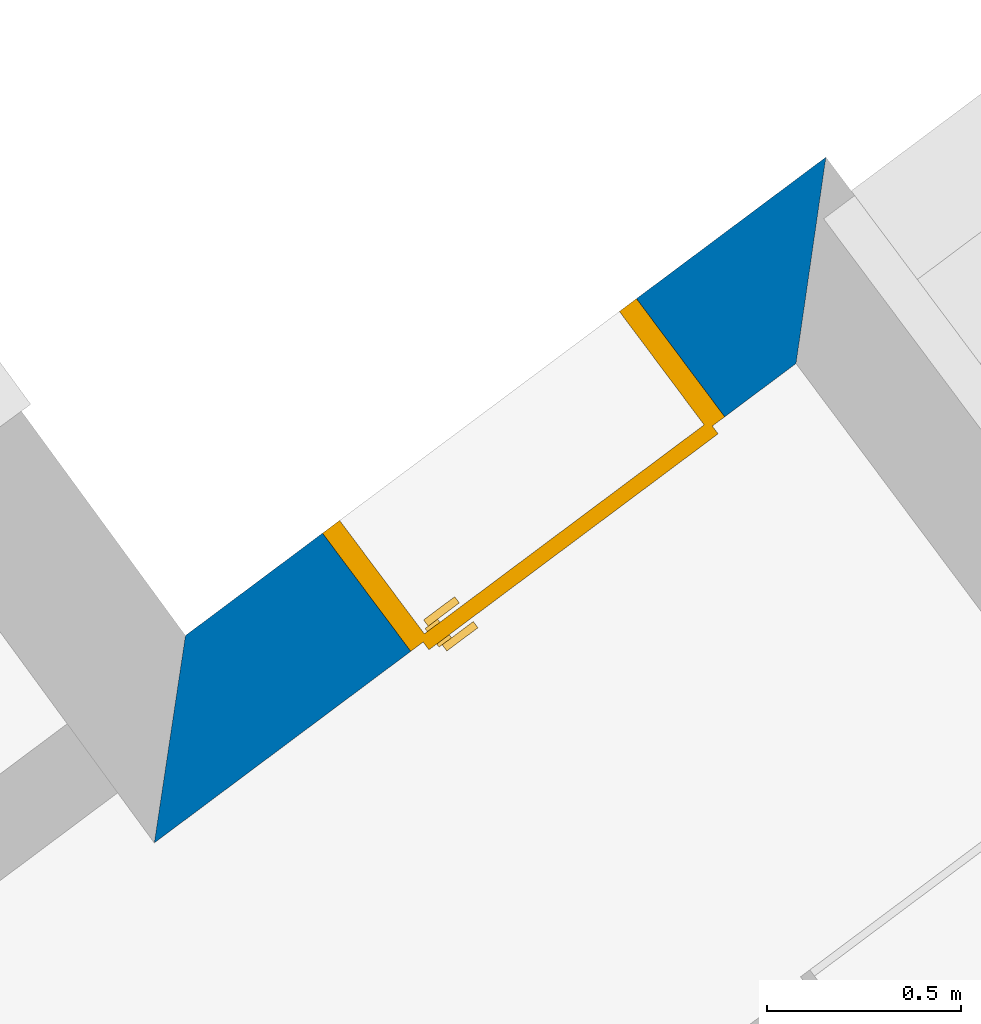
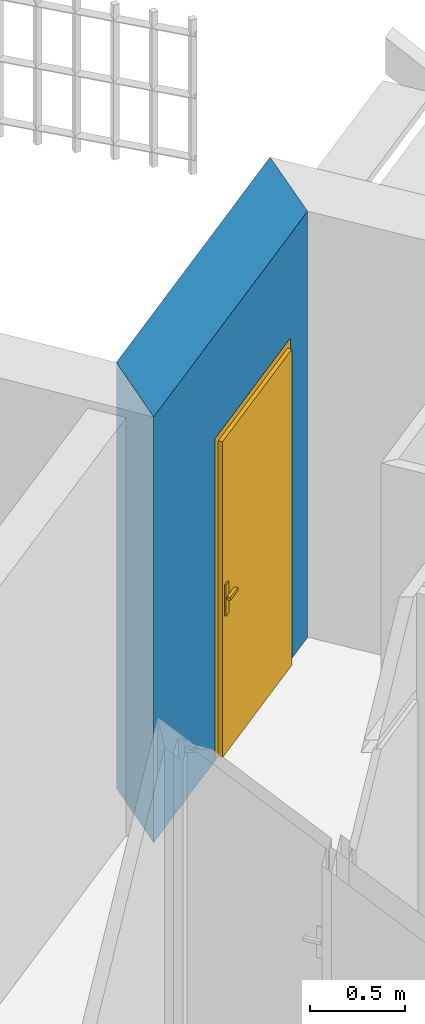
# One storey, part 14 of 195: 1 door, 1 wall, 1 opening.
"""IFC2X3 building model written with IfcOpenShell, lengths in metres."""

import ifcopenshell
import ifcopenshell.guid

model = None  # the IFC model being written
_history = None  # IfcOwnerHistory: only IFC2X3 demands one
_inside = {}  # id of a spatial element -> (the spatial element, [elements in it])
_under = {}  # id of a project, library or spatial element -> (it, [spatial elements below it])
_declared = {}  # id of a project -> (the project, [libraries it declares])
_typed = {}  # id of a type object -> (the type object, [elements of that type])
_made_of = {}  # id of a material, layer set ... -> (it, [elements and type objects made of it])


def new_model(schema):
    """Start an empty IFC model of exactly this schema.

    Asked for "IFC4X3", IfcOpenShell would pick the latest addendum, in which some entities
    have other attributes; the version numbers below select the first issue.
    IFC2X3 requires an IfcOwnerHistory on every rooted entity: one is made here for all.
    """
    global model, _history
    if schema == "IFC4X3":
        model = ifcopenshell.file(schema_version=(4, 3, 0, 0))
    else:
        model = ifcopenshell.file(schema=schema)
    _inside.clear()
    _under.clear()
    _declared.clear()
    _typed.clear()
    _made_of.clear()
    _history = None
    if model.schema == "IFC2X3":
        org = make("IfcOrganization", Name="unknown")
        user = make(
            "IfcPersonAndOrganization",
            ThePerson=make("IfcPerson", FamilyName="unknown"),
            TheOrganization=org,
        )
        app = make(
            "IfcApplication",
            ApplicationDeveloper=org,
            Version="unknown",
            ApplicationFullName="unknown",
            ApplicationIdentifier="unknown",
        )
        _history = make(
            "IfcOwnerHistory",
            OwningUser=user,
            OwningApplication=app,
            ChangeAction="ADDED",
            CreationDate=0,
        )
    return model


def make(cls, **values):
    """One entity of the class cls with the attributes given. An attribute that is None is left unset."""
    return model.create_entity(
        cls, **{name: value for name, value in values.items() if value is not None}
    )


def entity(cls, *values):
    """Any entity or typed value of the class cls, its attributes in the order of the schema. None: left unset."""
    e = model.create_entity(cls)
    for i, value in enumerate(values):
        if value is not None:
            e[i] = value
    return e


def rooted(cls, **values):
    """An entity with a GlobalId (a new one), such as an element, a storey or a relation."""
    return make(cls, GlobalId=ifcopenshell.guid.new(), OwnerHistory=_history, **values)


def si_unit(unit_type, name, prefix=None):
    """IfcSIUnit, for example si_unit("LENGTHUNIT", "METRE", prefix="MILLI")."""
    return make("IfcSIUnit", UnitType=unit_type, Prefix=prefix, Name=name)


def converted_unit(unit_type, name, factor, base, dimensions=None, offset=None):
    """IfcConversionBasedUnit, such as the inch: factor (a typed value) times the base unit."""
    return make(
        "IfcConversionBasedUnit"
        if offset is None
        else "IfcConversionBasedUnitWithOffset",
        ConversionOffset=offset,
        Dimensions=None
        if dimensions is None
        else entity("IfcDimensionalExponents", *dimensions),
        UnitType=unit_type,
        Name=name,
        ConversionFactor=make(
            "IfcMeasureWithUnit", ValueComponent=factor, UnitComponent=base
        ),
    )


def derived_unit(unit_type, elements):
    """IfcDerivedUnit: a product of units, each with its exponent."""
    return make(
        "IfcDerivedUnit",
        Elements=[
            make("IfcDerivedUnitElement", Unit=unit, Exponent=power)
            for unit, power in elements
        ],
        UnitType=unit_type,
    )


def money_unit(currency):
    """IfcMonetaryUnit."""
    return make("IfcMonetaryUnit", Currency=currency)


def assignment(units):
    """IfcUnitAssignment: the units of a project."""
    return None if units is None else make("IfcUnitAssignment", Units=units)


def point(xyz):
    """IfcCartesianPoint."""
    return None if xyz is None else make("IfcCartesianPoint", Coordinates=xyz)


def direction(xyz):
    """IfcDirection."""
    return None if xyz is None else make("IfcDirection", DirectionRatios=xyz)


def frame(location, z_axis=None, x_axis=None):
    """IfcAxis2Placement3D, a coordinate frame: its origin and axes. An axis left out is left unset."""
    return make(
        "IfcAxis2Placement3D",
        Location=point(location),
        Axis=direction(z_axis),
        RefDirection=direction(x_axis),
    )


def frame_2d(location, x_axis=None):
    """IfcAxis2Placement2D, a coordinate frame in the plane: its origin and x axis."""
    return make(
        "IfcAxis2Placement2D", Location=point(location), RefDirection=direction(x_axis)
    )


def origin_with_axes():
    """The frame at (0, 0, 0) with the z axis (0, 0, 1) and the x axis (1, 0, 0) written out."""
    return frame((0.0, 0.0, 0.0), z_axis=(0.0, 0.0, 1.0), x_axis=(1.0, 0.0, 0.0))


def origin_2d_with_axis():
    """The frame at (0, 0) in the plane with the x axis (1, 0) written out."""
    return frame_2d((0.0, 0.0), x_axis=(1.0, 0.0))


def place(relative_to, where):
    """IfcLocalPlacement: puts the frame where relative to a parent placement (None: the world)."""
    return make(
        "IfcLocalPlacement", PlacementRelTo=relative_to, RelativePlacement=where
    )


def context(
    kind, dimensions, precision=None, world=None, true_north=None, identifier=None
):
    """IfcGeometricRepresentationContext, for example the 3D "Model" context."""
    return make(
        "IfcGeometricRepresentationContext",
        ContextIdentifier=identifier,
        ContextType=kind,
        CoordinateSpaceDimension=dimensions,
        Precision=precision,
        WorldCoordinateSystem=world,
        TrueNorth=true_north,
    )


def subcontext(parent, identifier, kind, view, scale=None):
    """IfcGeometricRepresentationSubContext, for example "Body" below "Model"."""
    return make(
        "IfcGeometricRepresentationSubContext",
        ContextIdentifier=identifier,
        ContextType=kind,
        ParentContext=parent,
        TargetScale=scale,
        TargetView=view,
    )


def project(units=None, contexts=None):
    """IfcProject with its units and contexts."""
    return rooted(
        "IfcProject",
        Name="project",
        RepresentationContexts=contexts,
        UnitsInContext=assignment(units),
    )


def spatial(cls, under=None, at=None, **own):
    """A site, building, storey or space (cls), placed at a placement, below another one or the project."""
    s = rooted(cls, ObjectPlacement=at, **own)
    if under is not None:
        _under.setdefault(under.id(), (under, []))[1].append(s)
    return s


def polyline(points):
    """IfcPolyline through the points."""
    return make("IfcPolyline", Points=[point(p) for p in points])


def profile(cls, at=None, kind="AREA", **sizes):
    """A parametric profile (cls). Its sizes go by their IFC names, for example OverallWidth=200.0."""
    return make(cls, ProfileType=kind, Position=at, **sizes)


def rectangle(**sizes):
    """IfcRectangleProfileDef."""
    return profile("IfcRectangleProfileDef", **sizes)


def outline(outer, holes=None, kind="AREA"):
    """IfcArbitraryClosedProfileDef: a profile drawn as a closed curve; with holes, ...WithVoids."""
    if holes is None:
        return make("IfcArbitraryClosedProfileDef", ProfileType=kind, OuterCurve=outer)
    return make(
        "IfcArbitraryProfileDefWithVoids",
        ProfileType=kind,
        OuterCurve=outer,
        InnerCurves=holes,
    )


def extrude(swept, where, along, depth):
    """IfcExtrudedAreaSolid: the profile swept, set in the frame where, extruded along a direction by depth."""
    return make(
        "IfcExtrudedAreaSolid",
        SweptArea=swept,
        Position=where,
        ExtrudedDirection=direction(along),
        Depth=depth,
    )


def faces_of(points, faces, orient=None, outer=None):
    """IfcFace entities. A face is a list of loops; a loop is a list of indices into points, from 0.

    orient and outer hold one flag for each loop. By default every Orientation is true, the
    first loop of a face is its IfcFaceOuterBound and the others are IfcFaceBound.
    """
    made = []
    for i, loops in enumerate(faces):
        bounds = []
        for j, loop in enumerate(loops):
            is_outer = j == 0 if outer is None else outer[i][j]
            bounds.append(
                make(
                    "IfcFaceOuterBound" if is_outer else "IfcFaceBound",
                    Bound=make("IfcPolyLoop", Polygon=[points[k] for k in loop]),
                    Orientation=True if orient is None else orient[i][j],
                )
            )
        made.append(make("IfcFace", Bounds=bounds))
    return made


def faceted_brep(points, faces, orient=None, outer=None, voids=None):
    """IfcFacetedBrep: a solid bounded by flat faces; with voids (closed shells), ...WithVoids."""
    shared = [point(p) for p in points]
    hull = make("IfcClosedShell", CfsFaces=faces_of(shared, faces, orient, outer))
    if voids is None:
        return make("IfcFacetedBrep", Outer=hull)
    return make(
        "IfcFacetedBrepWithVoids",
        Outer=hull,
        Voids=[
            make(cls, CfsFaces=faces_of(shared, fs, o, b)) for cls, fs, o, b in voids
        ],
    )


def shape(context_of_items, identifier, shape_type, items):
    """IfcShapeRepresentation: the items that make up one representation, for example the "Body"."""
    return make(
        "IfcShapeRepresentation",
        ContextOfItems=context_of_items,
        RepresentationIdentifier=identifier,
        RepresentationType=shape_type,
        Items=items,
    )


def source(mapping_origin, context_of_items, identifier, shape_type, items):
    """IfcRepresentationMap: a shape defined once, which mapped items show again and again."""
    return make(
        "IfcRepresentationMap",
        MappingOrigin=mapping_origin,
        MappedRepresentation=shape(context_of_items, identifier, shape_type, items),
    )


def transform(
    local_origin,
    x_axis=None,
    y_axis=None,
    z_axis=None,
    scale=None,
    scale2=None,
    scale3=None,
    uniform=True,
):
    """IfcCartesianTransformationOperator3D, or its non-uniform kind. x_axis, y_axis, z_axis: its Axis1, 2, 3."""
    if uniform:
        return make(
            "IfcCartesianTransformationOperator3D",
            Axis1=direction(x_axis),
            Axis2=direction(y_axis),
            LocalOrigin=point(local_origin),
            Scale=scale,
            Axis3=direction(z_axis),
        )
    return make(
        "IfcCartesianTransformationOperator3DnonUniform",
        Axis1=direction(x_axis),
        Axis2=direction(y_axis),
        LocalOrigin=point(local_origin),
        Scale=scale,
        Axis3=direction(z_axis),
        Scale2=scale2,
        Scale3=scale3,
    )


def mapped(mapping_source, mapping_target):
    """IfcMappedItem: shows the shape of a source again, moved by a transform."""
    return make(
        "IfcMappedItem", MappingSource=mapping_source, MappingTarget=mapping_target
    )


def material(Name=None, Category=None):
    """IfcMaterial."""
    return make("IfcMaterial", Name=Name, Category=Category)


def layer(
    of_material, thickness, ventilated=None, Name=None, Category=None, Priority=None
):
    """IfcMaterialLayer: one layer of a wall or slab, of a material (None: an air gap)."""
    return make(
        "IfcMaterialLayer",
        Material=of_material,
        LayerThickness=thickness,
        IsVentilated=ventilated,
        Name=Name,
        Category=Category,
        Priority=Priority,
    )


def layer_set(layers, Name=None):
    """IfcMaterialLayerSet."""
    return make("IfcMaterialLayerSet", MaterialLayers=layers, LayerSetName=Name)


def layer_usage(for_layer_set, set_direction, sense, offset, extent=None):
    """IfcMaterialLayerSetUsage: how a layer set lies in its element."""
    return make(
        "IfcMaterialLayerSetUsage",
        ForLayerSet=for_layer_set,
        LayerSetDirection=set_direction,
        DirectionSense=sense,
        OffsetFromReferenceLine=offset,
        ReferenceExtent=extent,
    )


def made_of(thing, what):
    """Note that an element or type object is made of a material, layer set ...; save() writes the relation."""
    if what is not None:
        _made_of.setdefault(what.id(), (what, []))[1].append(thing)
    return thing


def type_object(cls, material=None, **own):
    """A type object (cls), such as IfcWallType, which elements share."""
    return made_of(rooted(cls, **own), material)


def element(
    cls,
    number,
    at=None,
    inside=None,
    cuts=None,
    type_object=None,
    material=None,
    context=None,
    identifier="Body",
    shape_type=None,
    held_by="IfcProductDefinitionShape",
    body=None,
    shapes=None,
    **own,
):
    """One element of the class cls, such as IfcWall. Its Tag is "e" and its number.

    at: its placement. inside: the storey or other place that contains it. cuts: it is an
    opening in that element (IfcRelVoidsElement). A single representation is given by context,
    identifier, shape_type and body (its items); several are given by shapes. held_by: the class
    of the entity that holds the representations. save() writes the other relations.
    """
    e = rooted(cls, Tag="e%d" % number, ObjectPlacement=at, **own)
    if body is not None:
        shapes = [shape(context, identifier, shape_type, body)]
    if shapes is not None:
        e.Representation = make(held_by, Representations=shapes)
    if inside is not None:
        _inside.setdefault(inside.id(), (inside, []))[1].append(e)
    if cuts is not None:
        rooted(
            "IfcRelVoidsElement", RelatingBuildingElement=cuts, RelatedOpeningElement=e
        )
    if type_object is not None:
        _typed.setdefault(type_object.id(), (type_object, []))[1].append(e)
    return made_of(e, material)


def fill(opening, filler):
    """IfcRelFillsElement: the door or window that sits in an opening."""
    return rooted(
        "IfcRelFillsElement",
        RelatingOpeningElement=opening,
        RelatedBuildingElement=filler,
    )


def aggregate(whole, parts):
    """IfcRelAggregates: a whole, such as a stair, and the parts it consists of."""
    return rooted("IfcRelAggregates", RelatingObject=whole, RelatedObjects=parts)


def save(model, path):
    """Write the relations noted so far, then the file.

    IfcRelAggregates (storeys below a building ...), IfcRelContainedInSpatialStructure (elements
    in a storey), IfcRelDefinesByType, IfcRelAssociatesMaterial and IfcRelDeclares: one each for
    every whole, place, type object, material and project.
    """
    for whole, parts in _under.values():
        aggregate(whole, parts)
    for where, things in _inside.values():
        rooted(
            "IfcRelContainedInSpatialStructure",
            RelatedElements=things,
            RelatingStructure=where,
        )
    for kind, things in _typed.values():
        rooted("IfcRelDefinesByType", RelatedObjects=things, RelatingType=kind)
    for what, things in _made_of.values():
        rooted("IfcRelAssociatesMaterial", RelatedObjects=things, RelatingMaterial=what)
    for by, libraries in _declared.values():
        rooted("IfcRelDeclares", RelatingContext=by, RelatedDefinitions=libraries)
    model.write(path)


model = new_model("IFC2X3")

# Units and contexts
model_context = context("Model", 3, precision=1e-05, world=origin_with_axes(), true_north=direction((0.0, 1.0)))
body_context = subcontext(model_context, "Body", "Model", "MODEL_VIEW")
ifc_project = project(units=[si_unit("LENGTHUNIT", "METRE"), si_unit("AREAUNIT", "SQUARE_METRE"), si_unit("VOLUMEUNIT", "CUBIC_METRE"), converted_unit("PLANEANGLEUNIT", "DEGREE", entity("IfcPlaneAngleMeasure", 0.0174532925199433), si_unit("PLANEANGLEUNIT", "RADIAN"), dimensions=[0, 0, 0, 0, 0, 0, 0]), money_unit("CHF"), converted_unit("TIMEUNIT", "Year", entity("IfcTimeMeasure", 31557600.0), si_unit("TIMEUNIT", "SECOND"), dimensions=[0, 0, 1, 0, 0, 0, 0]), si_unit("MASSUNIT", "GRAM", prefix="KILO"), si_unit("THERMODYNAMICTEMPERATUREUNIT", "DEGREE_CELSIUS"), si_unit("LUMINOUSINTENSITYUNIT", "LUMEN"), si_unit("ENERGYUNIT", "JOULE", prefix="MEGA"), derived_unit("THERMALCONDUCTANCEUNIT", [(si_unit("POWERUNIT", "WATT"), 1), (si_unit("LENGTHUNIT", "METRE"), -1), (si_unit("THERMODYNAMICTEMPERATUREUNIT", "KELVIN"), -1)]), derived_unit("SPECIFICHEATCAPACITYUNIT", [(si_unit("ENERGYUNIT", "JOULE"), 1), (si_unit("MASSUNIT", "GRAM", prefix="KILO"), -1), (si_unit("THERMODYNAMICTEMPERATUREUNIT", "KELVIN"), -1)]), derived_unit("MASSDENSITYUNIT", [(si_unit("MASSUNIT", "GRAM", prefix="KILO"), 1), (si_unit("VOLUMEUNIT", "CUBIC_METRE"), -1)])], contexts=[model_context])

# Site, building, storey
site_placement = place(None, origin_with_axes())
site = spatial("IfcSite", under=ifc_project, at=site_placement, Name="Site", CompositionType="ELEMENT")
building_placement = place(site_placement, origin_with_axes())
building = spatial("IfcBuilding", under=site, at=building_placement, Name="Bâtiment", CompositionType="ELEMENT")
storey_placement = place(building_placement, origin_with_axes())
storey = spatial("IfcBuildingStorey", under=building, at=storey_placement, Name="rdc", CompositionType="ELEMENT", Elevation=0.0)

# Wall, opening, door
ifc_material_1 = material(Name="Parpaing 312445824")
ifc_layer_1 = layer(ifc_material_1, 0.22, ventilated="UNKNOWN")
ifc_material_2 = material(Name="Isolant styromousse 301821074")
ifc_layer_2 = layer(ifc_material_2, 0.16, ventilated="UNKNOWN")
ifc_layer_set = layer_set([ifc_layer_1, ifc_layer_2], Name="isol int 22+16 0836643197")
ifc_layer_usage = layer_usage(ifc_layer_set, "AXIS2", "POSITIVE", 0.0)
wall_type = type_object("IfcWallType", Name="isol int 22+16 0836643197 380", PredefinedType="NOTDEFINED")
wall_placement = place(storey_placement, frame((9543.102010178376, -1073.884767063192, 57.7), z_axis=(0.0, 0.0, 1.0), x_axis=(-0.8011628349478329, -0.5984464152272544, 0.0)))
wall = element("IfcWallStandardCase", 1, at=wall_placement, inside=storey, type_object=wall_type, material=ifc_layer_usage, Name="Mur-113", context=body_context, shape_type="SweptSolid", body=[
    extrude(outline(polyline([(0.0, 0.0), (2.060284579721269, 0.0), (2.444200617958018, 0.3799999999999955), (0.3800000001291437, 0.3799999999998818), (0.0, 0.0)])), origin_with_axes(), (0.0, 0.0, 1.0), 2.75),
])
opening_placement = place(wall_placement, frame((1.114358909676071, 0.0, 0.0), z_axis=(0.0, 0.0, 1.0), x_axis=(1.0, 0.0, 0.0)))
opening = element("IfcOpeningElement", 2, at=opening_placement, cuts=wall, Name="Por-303", context=body_context, shape_type="SweptSolid", body=[
    extrude(rectangle(XDim=1.01000001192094, YDim=2.079999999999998, at=origin_2d_with_axis()), frame((-5.960600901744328e-09, -0.3799999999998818, 1.039999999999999), z_axis=(0.0, -1.0, 0.0), x_axis=(-1.0, 0.0, 0.0)), (0.0, 0.0, -1.0), 0.76),
])
door_style = type_object("IfcDoorStyle", Name="Porte_1v", ConstructionType="NOTDEFINED", OperationType="NOTDEFINED", ParameterTakesPrecedence=False, Sizeable=False)
shared_shape = source(origin_with_axes(), body_context, "Body", "Brep", [
    faceted_brep([(-0.505, 0.0, 0.0), (-0.505, 0.0, 2.08), (0.505, 0.0, 2.08), (0.505, 0.0, 0.0), (0.465, 0.0, 0.0), (0.465, 0.0, 2.04), (-0.465, 0.0, 2.04), (-0.465, 0.0, 0.0), (-0.505, -0.38, 0.0), (-0.505, -0.38, 2.08), (0.505, -0.38, 2.08), (0.505, -0.38, 0.0), (0.45, -0.38, 0.0), (0.45, -0.015, 0.0), (0.465, -0.015, 0.0), (0.465, -0.015, 2.04), (-0.465, -0.015, 2.04), (-0.465, -0.015, 0.0), (-0.45, -0.015, 0.0), (-0.45, -0.38, 0.0), (-0.45, -0.38, 2.025), (0.45, -0.38, 2.025), (0.45, -0.015, 2.025), (-0.45, -0.015, 2.025)], [[[0, 1, 2, 3, 4, 5, 6, 7]], [[8, 9, 1, 0]], [[9, 10, 2, 1]], [[10, 11, 3, 2]], [[3, 11, 12, 13, 14, 4]], [[5, 4, 14, 15]], [[6, 5, 15, 16]], [[7, 6, 16, 17]], [[0, 7, 17, 18, 19, 8]], [[19, 20, 21, 12, 11, 10, 9, 8]], [[22, 13, 12, 21]], [[17, 16, 15, 14, 13, 22, 23, 18]], [[18, 23, 20, 19]], [[23, 22, 21, 20]]]),
    faceted_brep([(0.4, -0.015, 0.9), (0.4, -0.015, 1.1), (0.44, -0.015, 1.1), (0.44, -0.015, 0.9), (0.4, -0.025, 0.9), (0.4, -0.025, 1.1), (0.44, -0.025, 1.1), (0.44, -0.025, 0.9)], [[[0, 1, 2, 3]], [[0, 4, 5, 1]], [[1, 5, 6, 2]], [[2, 6, 7, 3]], [[3, 7, 4, 0]], [[7, 6, 5, 4]]]),
    faceted_brep([(0.33, -0.025, 1.0), (0.33, -0.025, 1.02), (0.43, -0.025, 1.02), (0.43, -0.025, 1.0), (0.33, -0.045, 1.0), (0.33, -0.045, 1.02), (0.43, -0.045, 1.02), (0.43, -0.045, 1.0)], [[[0, 1, 2, 3]], [[0, 4, 5, 1]], [[1, 5, 6, 2]], [[2, 6, 7, 3]], [[3, 7, 4, 0]], [[7, 6, 5, 4]]]),
    faceted_brep([(0.4, 0.035, 0.9), (0.4, 0.035, 1.1), (0.44, 0.035, 1.1), (0.44, 0.035, 0.9), (0.4, 0.025, 0.9), (0.4, 0.025, 1.1), (0.44, 0.025, 1.1), (0.44, 0.025, 0.9)], [[[0, 1, 2, 3]], [[0, 4, 5, 1]], [[1, 5, 6, 2]], [[2, 6, 7, 3]], [[3, 7, 4, 0]], [[7, 6, 5, 4]]]),
    faceted_brep([(0.33, 0.05500000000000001, 1.0), (0.33, 0.05500000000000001, 1.02), (0.43, 0.05500000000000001, 1.02), (0.43, 0.05500000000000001, 1.0), (0.33, 0.035, 1.0), (0.33, 0.035, 1.02), (0.43, 0.035, 1.02), (0.43, 0.035, 1.0)], [[[0, 1, 2, 3]], [[0, 4, 5, 1]], [[1, 5, 6, 2]], [[2, 6, 7, 3]], [[3, 7, 4, 0]], [[7, 6, 5, 4]]]),
    faceted_brep([(0.465, 0.025, 0.0), (0.465, -0.015, 0.0), (-0.465, -0.015, 0.0), (-0.465, 0.025, 0.0), (0.465, 0.025, 2.04), (0.465, -0.015, 2.04), (-0.465, -0.015, 2.04), (-0.465, 0.025, 2.04)], [[[0, 1, 2, 3]], [[4, 5, 1, 0]], [[1, 5, 6, 2]], [[3, 2, 6, 7]], [[0, 3, 7, 4]], [[7, 6, 5, 4]]]),
])
door_placement = place(opening_placement, frame((-0.4649999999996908, 0.0, 0.0), z_axis=(0.0, 0.0, 1.0), x_axis=(1.0, 0.0, 0.0)))
door = element("IfcDoor", 3, at=door_placement, inside=storey, type_object=door_style, Name="Por-303", OverallHeight=2.04, OverallWidth=0.93, context=body_context, shape_type="MappedRepresentation", body=[
    mapped(shared_shape, transform((0.4650000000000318, 0.3799999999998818, 0.0))),
])
fill(opening, door)

save(model, "model.ifc")
